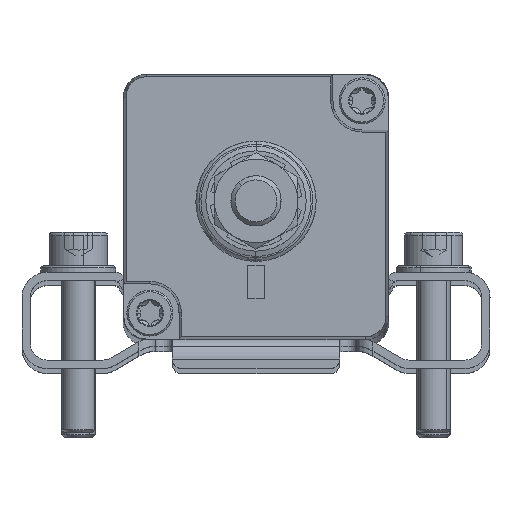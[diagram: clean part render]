
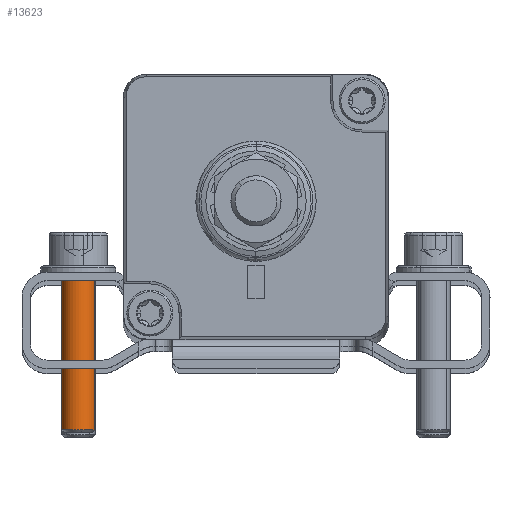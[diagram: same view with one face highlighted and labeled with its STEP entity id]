
A CAD part, top view. The second image highlights one B-rep face of the part: STEP entity #13623.
In plain terms, the highlighted cylindrical face has radius 2 mm (diameter 4 mm), a partial arc.
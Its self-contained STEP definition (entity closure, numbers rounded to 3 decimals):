
#13552 = VERTEX_POINT ( 'NONE', #19567 ) ;
#13554 = VERTEX_POINT ( 'NONE', #19563 ) ;
#13556 = VERTEX_POINT ( 'NONE', #19554 ) ;
#13560 = EDGE_CURVE ( 'NONE', #13552, #13554, #19608, .T. ) ;
#13571 = EDGE_CURVE ( 'NONE', #13554, #13556, #19584, .T. ) ;
#13579 = VERTEX_POINT ( 'NONE', #19631 ) ;
#13580 = EDGE_CURVE ( 'NONE', #13552, #13579, #19630, .T. ) ;
#13585 = VERTEX_POINT ( 'NONE', #19623 ) ;
#13586 = EDGE_CURVE ( 'NONE', #13585, #13556, #19619, .T. ) ;
#13617 = ORIENTED_EDGE ( 'NONE', *, *, #13571, .T. ) ;
#13618 = ORIENTED_EDGE ( 'NONE', *, *, #13586, .F. ) ;
#13619 = ORIENTED_EDGE ( 'NONE', *, *, #13630, .F. ) ;
#13620 = ORIENTED_EDGE ( 'NONE', *, *, #13560, .T. ) ;
#13621 = EDGE_LOOP ( 'NONE', ( #13622, #13620, #13617, #13618, #13619 ) ) ;
#13622 = ORIENTED_EDGE ( 'NONE', *, *, #13580, .F. ) ;
#13623 = ADVANCED_FACE ( 'NONE', ( #19680 ), #19679, .T. ) ;
#13630 = EDGE_CURVE ( 'NONE', #13579, #13585, #19727, .T. ) ;
#19554 = CARTESIAN_POINT ( 'NONE',  ( 2., 0., 23.65 ) ) ;
#19563 = CARTESIAN_POINT ( 'NONE',  ( 2., 0., 4.2 ) ) ;
#19567 = CARTESIAN_POINT ( 'NONE',  ( -2., 0., 4.2 ) ) ;
#19581 = DIRECTION ( 'NONE',  ( 0., 0., 1. ) ) ;
#19582 = VECTOR ( 'NONE', #19581, 1000. ) ;
#19583 = CARTESIAN_POINT ( 'NONE',  ( 2., 0., 4.2 ) ) ;
#19584 = LINE ( 'NONE', #19583, #19582 ) ;
#19604 = DIRECTION ( 'NONE',  ( 1., 0., 0. ) ) ;
#19605 = DIRECTION ( 'NONE',  ( 0., 0., 1. ) ) ;
#19606 = CARTESIAN_POINT ( 'NONE',  ( 0., 0., 4.2 ) ) ;
#19607 = AXIS2_PLACEMENT_3D ( 'NONE', #19606, #19605, #19604 ) ;
#19608 = CIRCLE ( 'NONE', #19607, 2. ) ;
#19615 = DIRECTION ( 'NONE',  ( 1., 0., 0. ) ) ;
#19616 = DIRECTION ( 'NONE',  ( 0., 0., 1. ) ) ;
#19617 = CARTESIAN_POINT ( 'NONE',  ( 0., 0., 23.65 ) ) ;
#19618 = AXIS2_PLACEMENT_3D ( 'NONE', #19617, #19616, #19615 ) ;
#19619 = CIRCLE ( 'NONE', #19618, 2. ) ;
#19623 = CARTESIAN_POINT ( 'NONE',  ( 0., -2., 23.65 ) ) ;
#19627 = DIRECTION ( 'NONE',  ( 0., 0., 1. ) ) ;
#19628 = VECTOR ( 'NONE', #19627, 1000. ) ;
#19629 = CARTESIAN_POINT ( 'NONE',  ( -2., 0., 4.2 ) ) ;
#19630 = LINE ( 'NONE', #19629, #19628 ) ;
#19631 = CARTESIAN_POINT ( 'NONE',  ( -2., 0., 23.65 ) ) ;
#19674 = DIRECTION ( 'NONE',  ( 1., 0., 0. ) ) ;
#19675 = DIRECTION ( 'NONE',  ( 0., 0., 1. ) ) ;
#19676 = AXIS2_PLACEMENT_3D ( 'NONE', #19678, #19675, #19674 ) ;
#19678 = CARTESIAN_POINT ( 'NONE',  ( 0., 0., 4.2 ) ) ;
#19679 = CYLINDRICAL_SURFACE ( 'NONE', #19676, 2. ) ;
#19680 = FACE_OUTER_BOUND ( 'NONE', #13621, .T. ) ;
#19723 = DIRECTION ( 'NONE',  ( 1., 0., 0. ) ) ;
#19724 = DIRECTION ( 'NONE',  ( 0., 0., 1. ) ) ;
#19725 = CARTESIAN_POINT ( 'NONE',  ( 0., 0., 23.65 ) ) ;
#19726 = AXIS2_PLACEMENT_3D ( 'NONE', #19725, #19724, #19723 ) ;
#19727 = CIRCLE ( 'NONE', #19726, 2. ) ;
